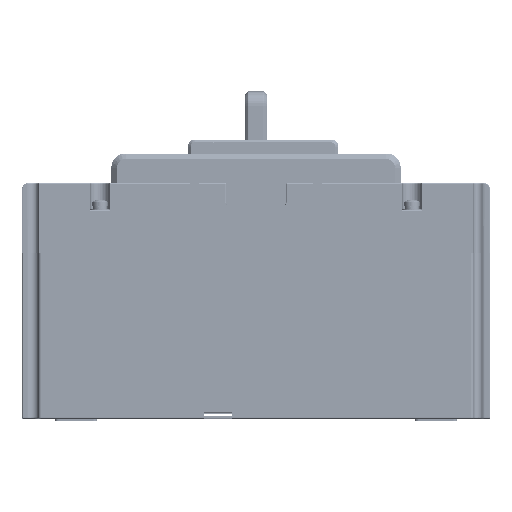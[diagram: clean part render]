
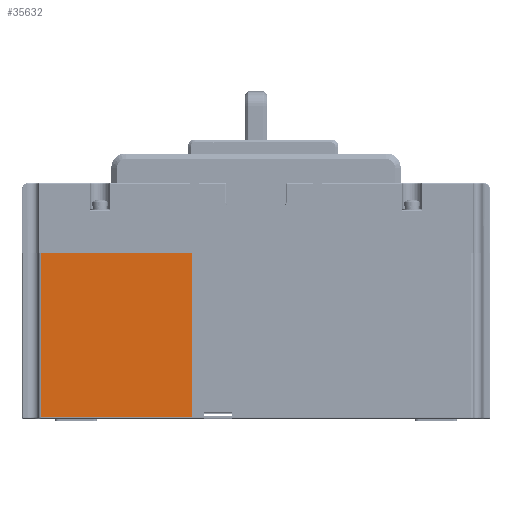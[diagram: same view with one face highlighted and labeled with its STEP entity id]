
A CAD part, top view. The second image highlights one B-rep face of the part: STEP entity #35632.
In plain terms, the highlighted planar face has unit normal (0, 0, 1).
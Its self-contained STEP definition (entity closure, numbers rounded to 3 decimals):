
#233=DIRECTION('',(-1.,0.,0.));
#234=VECTOR('',#233,53.167);
#235=CARTESIAN_POINT('',(-22.5,8.7,53.5));
#236=LINE('',#235,#234);
#2542=DIRECTION('',(1.,0.,0.));
#2543=VECTOR('',#2542,53.167);
#2544=CARTESIAN_POINT('',(-75.667,-49.3,53.5));
#2545=LINE('',#2544,#2543);
#2560=DIRECTION('',(0.,1.,0.));
#2561=VECTOR('',#2560,58.);
#2562=CARTESIAN_POINT('',(-22.5,-49.3,53.5));
#2563=LINE('',#2562,#2561);
#12263=DIRECTION('',(0.,-1.,0.));
#12264=VECTOR('',#12263,58.);
#12265=CARTESIAN_POINT('',(-75.667,8.7,53.5));
#12266=LINE('',#12265,#12264);
#14136=CARTESIAN_POINT('',(-22.5,8.7,53.5));
#14137=VERTEX_POINT('',#14136);
#14138=CARTESIAN_POINT('',(-75.667,8.7,53.5));
#14139=VERTEX_POINT('',#14138);
#15868=CARTESIAN_POINT('',(-22.5,-49.3,53.5));
#15869=VERTEX_POINT('',#15868);
#15870=CARTESIAN_POINT('',(-75.667,-49.3,53.5));
#15871=VERTEX_POINT('',#15870);
#35620=CARTESIAN_POINT('',(0.,0.,53.5));
#35621=DIRECTION('',(0.,0.,1.));
#35622=DIRECTION('',(1.,0.,0.));
#35623=AXIS2_PLACEMENT_3D('',#35620,#35621,#35622);
#35624=PLANE('',#35623);
#35625=ORIENTED_EDGE('',*,*,#21060,.F.);
#35627=ORIENTED_EDGE('',*,*,#35626,.F.);
#35628=ORIENTED_EDGE('',*,*,#18271,.F.);
#35629=ORIENTED_EDGE('',*,*,#21076,.F.);
#35630=EDGE_LOOP('',(#35625,#35627,#35628,#35629));
#35631=FACE_OUTER_BOUND('',#35630,.F.);
#35632=ADVANCED_FACE('',(#35631),#35624,.T.);
#18271=EDGE_CURVE('',#14137,#14139,#236,.T.);
#21060=EDGE_CURVE('',#15871,#15869,#2545,.T.);
#21076=EDGE_CURVE('',#15869,#14137,#2563,.T.);
#35626=EDGE_CURVE('',#14139,#15871,#12266,.T.);
